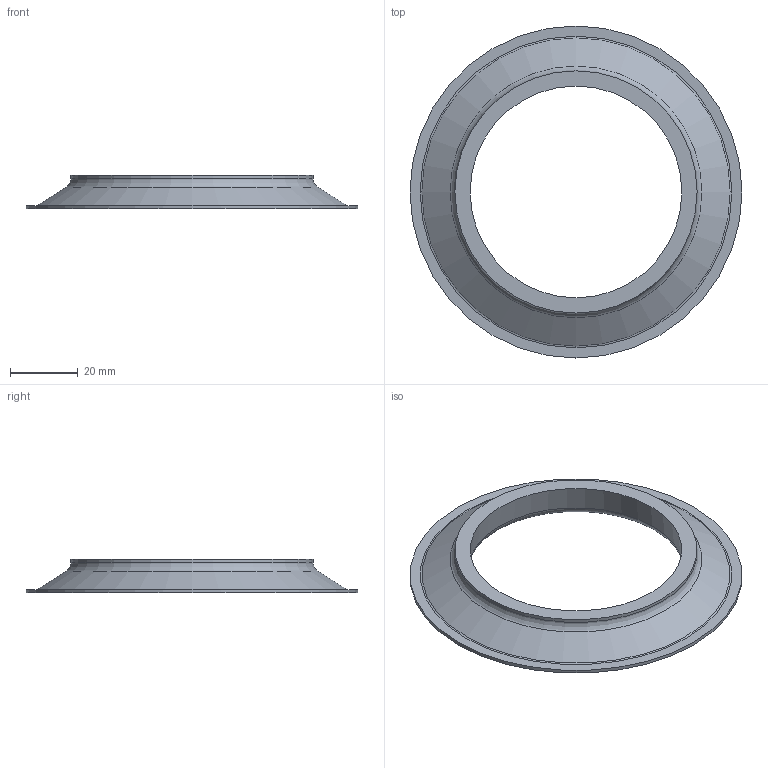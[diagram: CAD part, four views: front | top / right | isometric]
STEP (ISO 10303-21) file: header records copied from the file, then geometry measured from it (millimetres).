
FILE_DESCRIPTION( ('This file contains a STEP AP42 implementation' ,'as created by ZW3D STEP Interface translator.') ,'2;1' );
FILE_NAME( 'KM-62.stp' ,'26 511.1149 5', (''), ('ZWCAD Software Co.'), 'Version 1.0', 'ZW3D to STEP translator', '' );
FILE_SCHEMA(('AP242_MANAGED_MODEL_BASED_3D_ENGINEERING_MIM_LF { 1 0 10303 442 1 1 4 }'));
Length unit declared in the file: millimetre
Products named in the file (1): 0
Bounding box: 98 x 98 x 10 mm (x, y, z)
Volume: 19736.2 mm3; surface area: 11899.4 mm2
Topology: 1 solids, 1 shells, 10 faces, 17 edges, 10 vertices
Faces by surface type: plane 3, torus 3, cylinder 2, cone 2
Full cylindrical faces by diameter (mm): 71.5 x1, 98 x1
Entity records: 276 total; most frequent: DIRECTION 52, CARTESIAN_POINT 38, ORIENTED_EDGE 34, AXIS2_PLACEMENT_3D 24, EDGE_CURVE 17, CIRCLE 13, EDGE_LOOP 13, VERTEX_POINT 10
